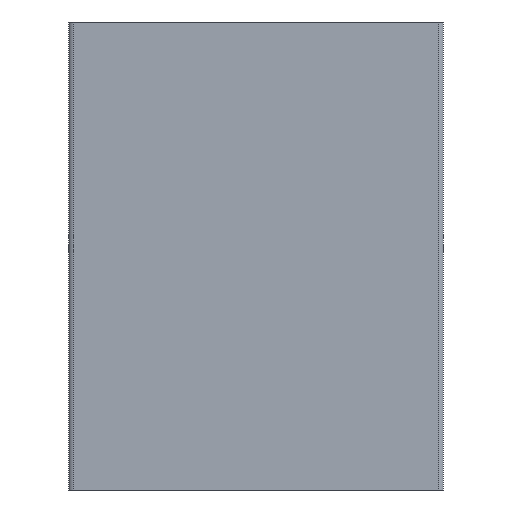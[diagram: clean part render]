
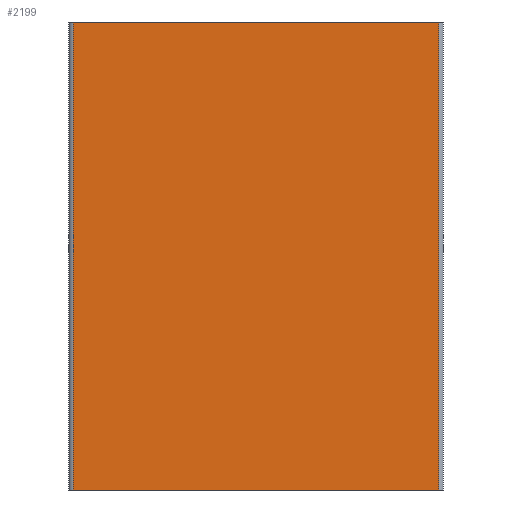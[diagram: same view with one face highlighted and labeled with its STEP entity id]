
A CAD part, left-side view. The second image highlights one B-rep face of the part: STEP entity #2199.
In plain terms, the highlighted planar face has unit normal (-1, 0, 0).
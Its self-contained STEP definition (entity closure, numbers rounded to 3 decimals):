
#273 = LINE ( 'NONE', #274, #275 ) ;
#274 = CARTESIAN_POINT ( 'NONE',  ( -80., 0.5, 0. ) ) ;
#275 = VECTOR ( 'NONE', #276, 1000. ) ;
#276 = DIRECTION ( 'NONE',  ( 0., -1., 0. ) ) ;
#659 = ORIENTED_EDGE ( 'NONE', *, *, #2455, .T. ) ;
#830 = FACE_OUTER_BOUND ( 'NONE', #2172, .T. ) ;
#831 = PLANE ( 'NONE',  #832 ) ;
#832 = AXIS2_PLACEMENT_3D ( 'NONE', #833, #834, #835 ) ;
#833 = CARTESIAN_POINT ( 'NONE',  ( -80., 0.5, 50. ) ) ;
#834 = DIRECTION ( 'NONE',  ( 1., 0., 0. ) ) ;
#835 = DIRECTION ( 'NONE',  ( 0., 0., -1. ) ) ;
#1187 = EDGE_CURVE ( 'NONE', #2442, #1871, #1576, .T. ) ;
#1543 = ORIENTED_EDGE ( 'NONE', *, *, #1187, .F. ) ;
#1576 = LINE ( 'NONE', #1577, #1578 ) ;
#1577 = CARTESIAN_POINT ( 'NONE',  ( -80., 0.5, 50. ) ) ;
#1578 = VECTOR ( 'NONE', #1579, 1000. ) ;
#1579 = DIRECTION ( 'NONE',  ( 0., -1., 0. ) ) ;
#1871 = VERTEX_POINT ( 'NONE', #2897 ) ;
#1901 = EDGE_CURVE ( 'NONE', #1871, #2029, #3005, .T. ) ;
#1952 = ORIENTED_EDGE ( 'NONE', *, *, #1901, .F. ) ;
#2029 = VERTEX_POINT ( 'NONE', #3421 ) ;
#2055 = EDGE_CURVE ( 'NONE', #2530, #2029, #273, .T. ) ;
#2108 = ORIENTED_EDGE ( 'NONE', *, *, #2055, .T. ) ;
#2172 = EDGE_LOOP ( 'NONE', ( #2108, #1952, #1543, #659 ) ) ;
#2199 = ADVANCED_FACE ( 'NONE', ( #830 ), #831, .F. ) ;
#2442 = VERTEX_POINT ( 'NONE', #2673 ) ;
#2455 = EDGE_CURVE ( 'NONE', #2442, #2530, #2802, .T. ) ;
#2530 = VERTEX_POINT ( 'NONE', #3241 ) ;
#2673 = CARTESIAN_POINT ( 'NONE',  ( -80., 39.5, 50. ) ) ;
#2802 = LINE ( 'NONE', #2803, #2804 ) ;
#2803 = CARTESIAN_POINT ( 'NONE',  ( -80., 39.5, 50. ) ) ;
#2804 = VECTOR ( 'NONE', #2805, 1000. ) ;
#2805 = DIRECTION ( 'NONE',  ( 0., 0., -1. ) ) ;
#2897 = CARTESIAN_POINT ( 'NONE',  ( -80., 0.5, 50. ) ) ;
#3005 = LINE ( 'NONE', #3006, #3007 ) ;
#3006 = CARTESIAN_POINT ( 'NONE',  ( -80., 0.5, 50. ) ) ;
#3007 = VECTOR ( 'NONE', #3008, 1000. ) ;
#3008 = DIRECTION ( 'NONE',  ( 0., 0., -1. ) ) ;
#3241 = CARTESIAN_POINT ( 'NONE',  ( -80., 39.5, 0. ) ) ;
#3421 = CARTESIAN_POINT ( 'NONE',  ( -80., 0.5, 0. ) ) ;
